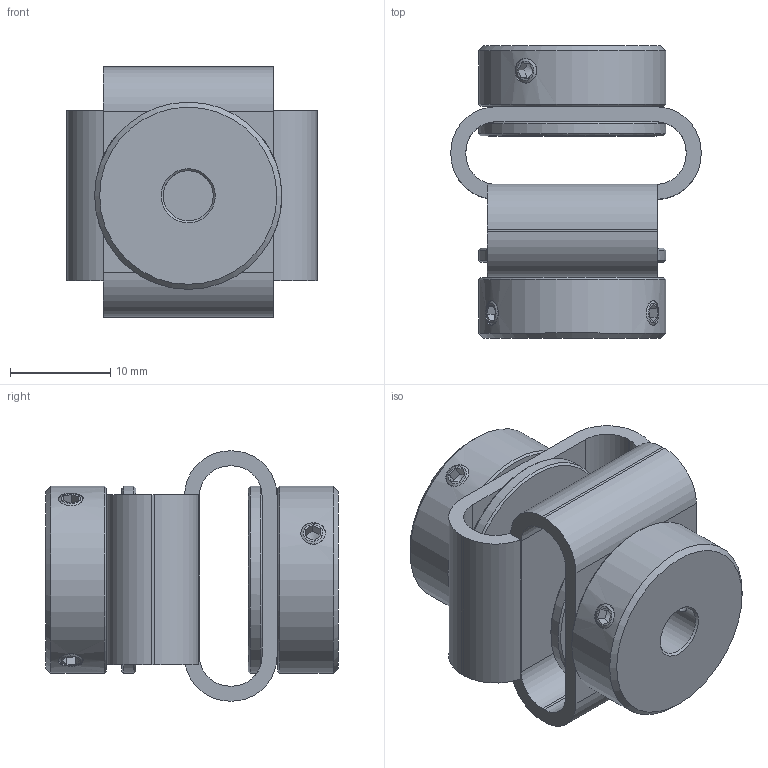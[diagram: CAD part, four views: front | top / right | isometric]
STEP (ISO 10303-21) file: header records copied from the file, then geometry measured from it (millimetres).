
FILE_DESCRIPTION(/* description */ (''),/* implementation_level */ '2;1');
FILE_NAME(/* name */ 'Z:\ABP-Antriebstechnik\Entwicklung-3D\Paguflex\DKPS 2928 05 08.stp',/* time_stamp */ '2017-06-30T08:16:08+02:00',/* author */ ('werner.boesinger'),/* organization */ (''),/* preprocessor_version */ 'ST-DEVELOPER v16.1',/* originating_system */ 'Autodesk Inventor 2016',/* authorisation */ '');
FILE_SCHEMA (('AUTOMOTIVE_DESIGN { 1 0 10303 214 3 1 1 }'));
Length unit declared in the file: millimetre
Products named in the file (1): DKPS 2928 05 08
Bounding box: 25 x 29.2 x 25 mm (x, y, z)
Volume: 5775.9 mm3; surface area: 5417.3 mm2
Topology: 1 solids, 3 shells, 154 faces, 366 edges, 226 vertices
Faces by surface type: plane 90, cylinder 36, cone 28
Full cylindrical faces by diameter (mm): 2.459 x8, 5 x1, 8 x1, 12.5 x2, 14 x4, 18.7 x4
Entity records: 4367 total; most frequent: CARTESIAN_POINT 961, DIRECTION 694, ORIENTED_EDGE 572, EDGE_CURVE 286, AXIS2_PLACEMENT_3D 273, EDGE_LOOP 220, VERTEX_POINT 192, STYLED_ITEM 155
